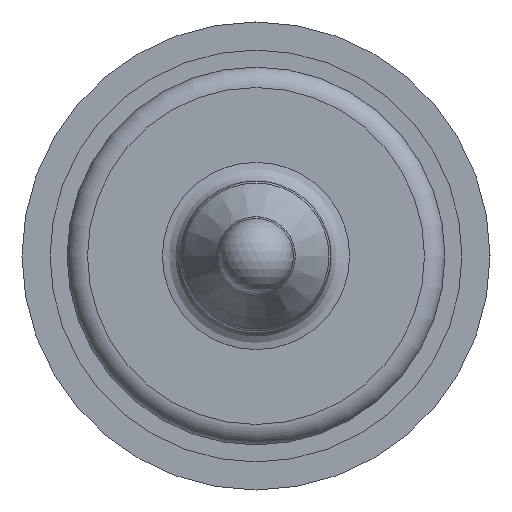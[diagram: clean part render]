
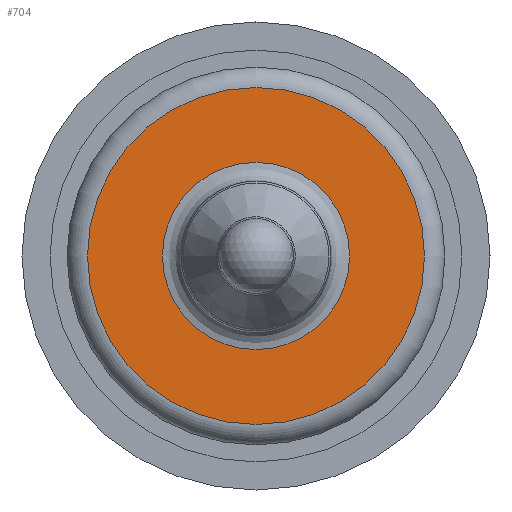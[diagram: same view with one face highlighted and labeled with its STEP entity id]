
A CAD part, front view. The second image highlights one B-rep face of the part: STEP entity #704.
In plain terms, the highlighted planar face has unit normal (0, -1, 0).
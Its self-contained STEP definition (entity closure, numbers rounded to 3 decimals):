
#670=CARTESIAN_POINT('',(-5.,35.,0.0));
#671=VERTEX_POINT('',#670);
#672=CARTESIAN_POINT('',(0.,35.,0.0));
#673=DIRECTION('',(0.0,1.0,0.0));
#674=DIRECTION('',(-1.0,0.0,0.0));
#675=AXIS2_PLACEMENT_3D('',#672,#673,#674);
#676=CIRCLE('',#675,5.);
#677=EDGE_CURVE('',#671,#671,#676,.T.);
#685=CARTESIAN_POINT('',(-7.,35.,0.0));
#686=DIRECTION('',(0.0,-1.0,0.0));
#687=DIRECTION('',(0.0,0.0,-1.0));
#688=AXIS2_PLACEMENT_3D('',#685,#686,#687);
#689=PLANE('',#688);
#690=CARTESIAN_POINT('',(-9.,35.,0.0));
#691=VERTEX_POINT('',#690);
#692=CARTESIAN_POINT('',(0.,35.,0.0));
#693=DIRECTION('',(0.0,1.0,0.0));
#694=DIRECTION('',(-1.0,0.0,0.0));
#695=AXIS2_PLACEMENT_3D('',#692,#693,#694);
#696=CIRCLE('',#695,9.);
#697=EDGE_CURVE('',#691,#691,#696,.T.);
#698=ORIENTED_EDGE('',*,*,#697,.F.);
#699=EDGE_LOOP('',(#698));
#700=FACE_OUTER_BOUND('',#699,.T.);
#701=ORIENTED_EDGE('',*,*,#677,.T.);
#702=EDGE_LOOP('',(#701));
#703=FACE_BOUND('',#702,.T.);
#704=ADVANCED_FACE('',(#700,#703),#689,.T.);
